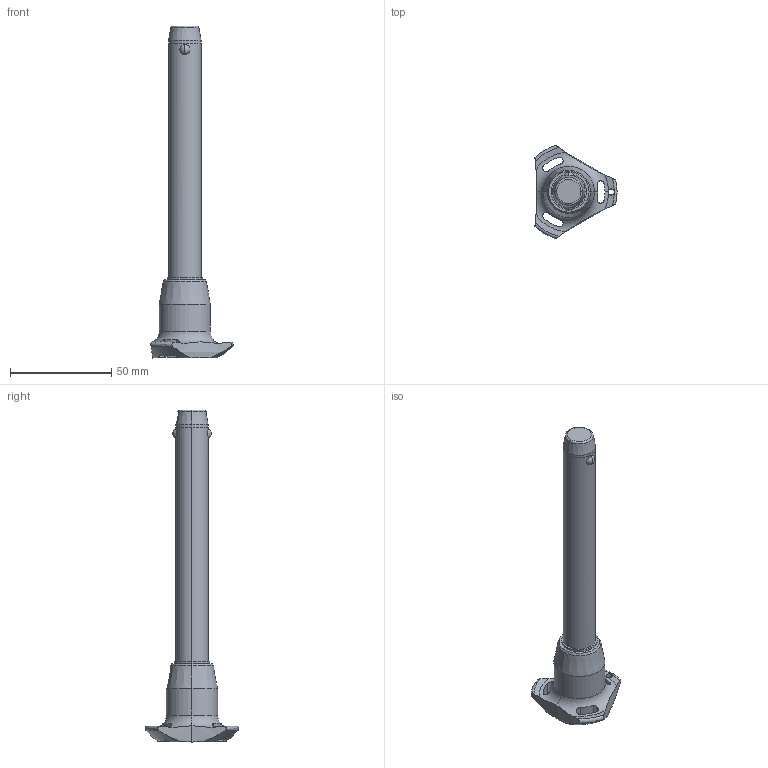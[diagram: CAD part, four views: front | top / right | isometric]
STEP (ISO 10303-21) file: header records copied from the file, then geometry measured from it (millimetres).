
FILE_DESCRIPTION (( 'STEP AP203' ), '1' );
FILE_NAME ('QR1736.M16-110-T.step', '2025-11-13T12:08:44', ( '' ), ( '' ), 'SwSTEP 2.0', 'SolidWorks 2019', '' );
FILE_SCHEMA (( 'CONFIG_CONTROL_DESIGN' ));
Length unit declared in the file: millimetre
Products named in the file (1): QR1736.M16-110-T
Bounding box: 40.5 x 45.88 x 163.7 mm (x, y, z)
Volume: 45846.4 mm3; surface area: 12122.2 mm2
Topology: 1 solids, 1 shells, 68 faces, 183 edges, 116 vertices
Faces by surface type: cylinder 32, cone 14, torus 11, sphere 6, plane 5
Entity records: 2923 total; most frequent: CARTESIAN_POINT 1170, ORIENTED_EDGE 366, DIRECTION 346, EDGE_CURVE 183, AXIS2_PLACEMENT_3D 154, VERTEX_POINT 116, CIRCLE 85, EDGE_LOOP 75
